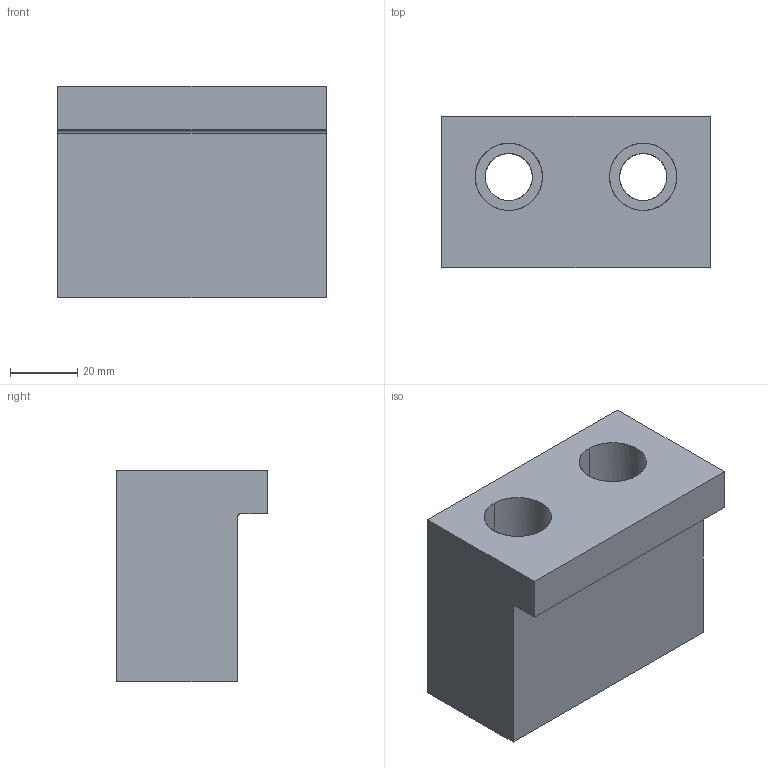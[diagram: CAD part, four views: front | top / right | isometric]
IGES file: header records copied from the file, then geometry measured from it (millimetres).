
Global section: file name: E:\UnigraphicsGraphicData\MISUMI_PRESS-PARTS\IGES\3d_bse80-50_01317_r00.igs; native system: NX V5.0; preprocessor: UGS NX IGES V5.0; author: MISUMI; date: 20110105.160141; units: millimetre
Bounding box: 80 x 45 x 63 mm (x, y, z)
Surface area: 27467.9 mm2 (no closed solid volume)
Topology: 0 solids, 0 shells, 19 faces, 142 edges, 142 vertices
Faces by surface type: bspline 19
